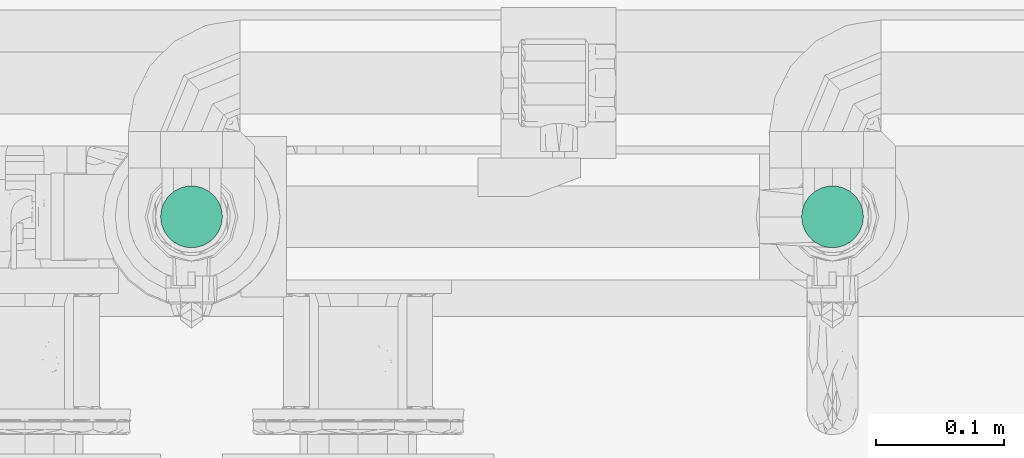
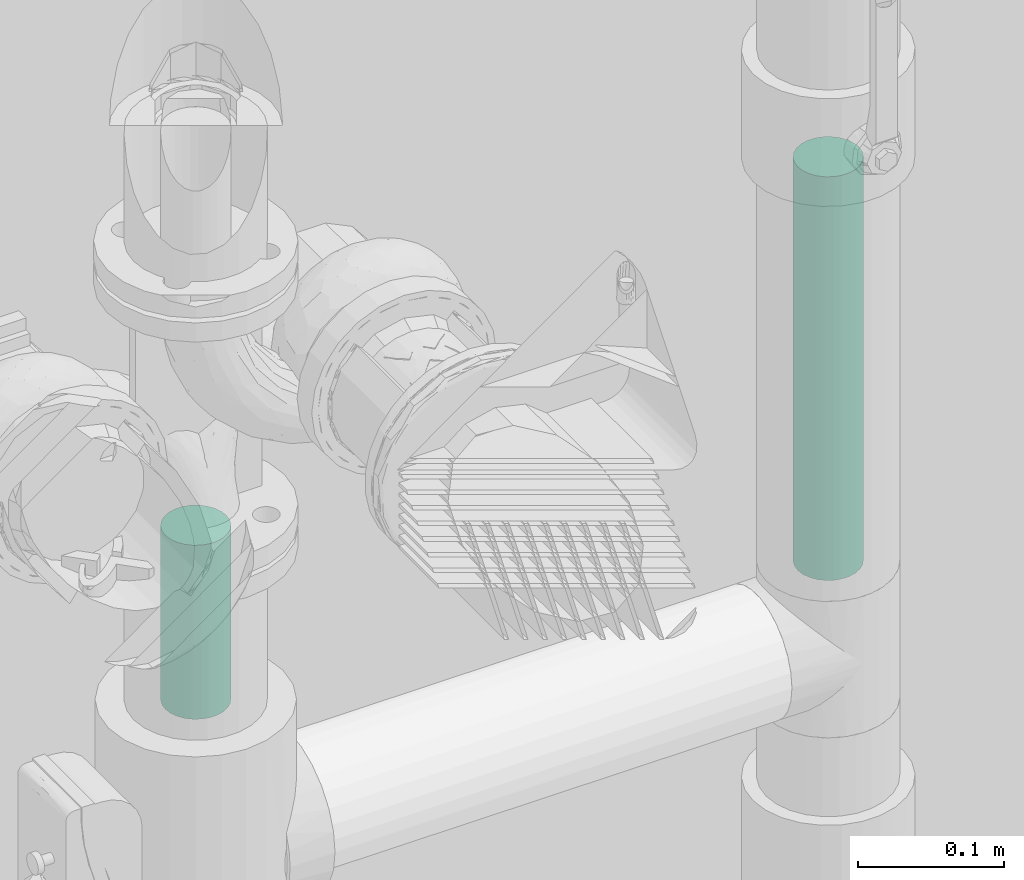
# One storey, part 80 of 94: 2 flow segments.
"""IFC2X3 building model written with IfcOpenShell, lengths in millimetres."""

from ifc_helpers import new_model, entity, si_unit, converted_unit, derived_unit, direction, frame, origin, origin_2d_with_axis, place, context, subcontext, project, spatial, circle, extrude, type_object, element, save


model = new_model("IFC2X3")

# Units and contexts
model_context = context("Model", 3, precision=0.01, world=origin(), true_north=direction((6.123031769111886e-17, 1.0)))
body_context = subcontext(model_context, "Body", "Model", "MODEL_VIEW")
ifc_project = project(units=[si_unit("LENGTHUNIT", "METRE", prefix="MILLI"), si_unit("AREAUNIT", "SQUARE_METRE"), si_unit("VOLUMEUNIT", "CUBIC_METRE"), converted_unit("PLANEANGLEUNIT", "DEGREE", entity("IfcRatioMeasure", 0.017453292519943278), si_unit("PLANEANGLEUNIT", "RADIAN"), dimensions=[0, 0, 0, 0, 0, 0, 0]), si_unit("MASSUNIT", "GRAM", prefix="KILO"), derived_unit("MASSDENSITYUNIT", [(si_unit("MASSUNIT", "GRAM", prefix="KILO"), 1), (si_unit("LENGTHUNIT", "METRE"), -3)]), derived_unit("IONCONCENTRATIONUNIT", [(si_unit("MASSUNIT", "GRAM", prefix="KILO"), 1), (si_unit("LENGTHUNIT", "METRE"), -3)]), derived_unit("MOMENTOFINERTIAUNIT", [(si_unit("LENGTHUNIT", "METRE"), 4)]), si_unit("TIMEUNIT", "SECOND"), si_unit("FREQUENCYUNIT", "HERTZ"), si_unit("THERMODYNAMICTEMPERATUREUNIT", "DEGREE_CELSIUS"), derived_unit("THERMALTRANSMITTANCEUNIT", [(si_unit("MASSUNIT", "GRAM", prefix="KILO"), 1), (si_unit("THERMODYNAMICTEMPERATUREUNIT", "KELVIN"), -1), (si_unit("TIMEUNIT", "SECOND"), -3)]), derived_unit("THERMALCONDUCTANCEUNIT", [(si_unit("MASSUNIT", "GRAM", prefix="KILO"), 1), (si_unit("THERMODYNAMICTEMPERATUREUNIT", "KELVIN"), -1), (si_unit("TIMEUNIT", "SECOND"), -3), (si_unit("LENGTHUNIT", "METRE"), 1)]), derived_unit("VOLUMETRICFLOWRATEUNIT", [(si_unit("LENGTHUNIT", "METRE"), 3), (si_unit("TIMEUNIT", "SECOND"), -1)]), derived_unit("MASSFLOWRATEUNIT", [(si_unit("MASSUNIT", "GRAM", prefix="KILO"), 1), (si_unit("TIMEUNIT", "SECOND"), -1)]), derived_unit("ROTATIONALFREQUENCYUNIT", [(si_unit("TIMEUNIT", "SECOND"), -1)]), si_unit("ELECTRICCURRENTUNIT", "AMPERE"), si_unit("ELECTRICVOLTAGEUNIT", "VOLT"), si_unit("POWERUNIT", "WATT"), si_unit("FORCEUNIT", "NEWTON", prefix="KILO"), si_unit("ILLUMINANCEUNIT", "LUX"), si_unit("LUMINOUSFLUXUNIT", "LUMEN"), si_unit("LUMINOUSINTENSITYUNIT", "CANDELA"), derived_unit("USERDEFINED", [(si_unit("MASSUNIT", "GRAM", prefix="KILO"), -1), (si_unit("LENGTHUNIT", "METRE"), -2), (si_unit("TIMEUNIT", "SECOND"), 3), (si_unit("LUMINOUSFLUXUNIT", "LUMEN"), 1)]), derived_unit("USERDEFINED", [(si_unit("MASSUNIT", "GRAM", prefix="KILO"), 1), (si_unit("TIMEUNIT", "SECOND"), -3), (si_unit("LENGTHUNIT", "METRE"), 3), (si_unit("ELECTRICCURRENTUNIT", "AMPERE"), -2)]), derived_unit("SOUNDPOWERUNIT", [(si_unit("MASSUNIT", "GRAM", prefix="KILO"), 1), (si_unit("TIMEUNIT", "SECOND"), -3), (si_unit("LENGTHUNIT", "METRE"), 2)]), derived_unit("SOUNDPRESSUREUNIT", [(si_unit("MASSUNIT", "GRAM", prefix="KILO"), 1), (si_unit("LENGTHUNIT", "METRE"), -1), (si_unit("TIMEUNIT", "SECOND"), -2)]), derived_unit("LINEARVELOCITYUNIT", [(si_unit("LENGTHUNIT", "METRE"), 1), (si_unit("TIMEUNIT", "SECOND"), -1)]), si_unit("PRESSUREUNIT", "PASCAL"), derived_unit("USERDEFINED", [(si_unit("MASSUNIT", "GRAM", prefix="KILO"), 1), (si_unit("LENGTHUNIT", "METRE"), -2), (si_unit("TIMEUNIT", "SECOND"), -2)]), derived_unit("LINEARFORCEUNIT", [(si_unit("MASSUNIT", "GRAM", prefix="KILO"), 1), (si_unit("TIMEUNIT", "SECOND"), -2)]), derived_unit("PLANARFORCEUNIT", [(si_unit("MASSUNIT", "GRAM", prefix="KILO"), 1), (si_unit("LENGTHUNIT", "METRE"), -1), (si_unit("TIMEUNIT", "SECOND"), -2)]), derived_unit("SPECIFICHEATCAPACITYUNIT", [(si_unit("THERMODYNAMICTEMPERATUREUNIT", "KELVIN"), -1), (si_unit("LENGTHUNIT", "METRE"), 2), (si_unit("TIMEUNIT", "SECOND"), -2)]), derived_unit("HEATINGVALUEUNIT", [(si_unit("LENGTHUNIT", "METRE"), 2), (si_unit("TIMEUNIT", "SECOND"), -2)]), derived_unit("VAPORPERMEABILITYUNIT", [(si_unit("LENGTHUNIT", "METRE"), -1), (si_unit("TIMEUNIT", "SECOND"), 1)]), derived_unit("DYNAMICVISCOSITYUNIT", [(si_unit("MASSUNIT", "GRAM", prefix="KILO"), 1), (si_unit("TIMEUNIT", "SECOND"), -1), (si_unit("LENGTHUNIT", "METRE"), -1)]), derived_unit("THERMALEXPANSIONCOEFFICIENTUNIT", [(si_unit("THERMODYNAMICTEMPERATUREUNIT", "KELVIN"), -1)]), derived_unit("MODULUSOFELASTICITYUNIT", [(si_unit("MASSUNIT", "GRAM", prefix="KILO"), 1), (si_unit("LENGTHUNIT", "METRE"), -1), (si_unit("TIMEUNIT", "SECOND"), -2)]), derived_unit("ISOTHERMALMOISTURECAPACITYUNIT", [(si_unit("LENGTHUNIT", "METRE"), 3), (si_unit("MASSUNIT", "GRAM", prefix="KILO"), -1)]), derived_unit("MOISTUREDIFFUSIVITYUNIT", [(si_unit("TIMEUNIT", "SECOND"), -1), (si_unit("LENGTHUNIT", "METRE"), 2)])], contexts=[model_context])

# Site, building, storey
site_placement = place(None, origin())
site = spatial("IfcSite", under=ifc_project, at=site_placement, Name="Default", CompositionType="ELEMENT")
building_placement = place(site_placement, origin())
building = spatial("IfcBuilding", under=site, at=building_placement, CompositionType="ELEMENT")
storey_placement = place(building_placement, origin())
storey = spatial("IfcBuildingStorey", under=building, at=storey_placement, Name="Niveau 0", CompositionType="ELEMENT", Elevation=0.0)

# Flow segments
pipe_segment_type_1 = type_object("IfcPipeSegmentType", Name="Canalisation:Bride acier", PredefinedType="NOTDEFINED")
flow_segment_1_placement = place(storey_placement, origin())
element("IfcFlowSegment", 1, at=flow_segment_1_placement, inside=storey, type_object=pipe_segment_type_1, Name="Canalisation:Bride acier", ObjectType="Canalisation:Bride acier", context=body_context, shape_type="SweptSolid", body=[
    extrude(circle(Radius=24.13, at=origin_2d_with_axis()), frame((-8972.14586555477, 9922.47054616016, 2067.589965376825)), (0.0, 0.0, 1.0), 337.41003462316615),
])
pipe_segment_type_2 = type_object("IfcPipeSegmentType", Name="Canalisation:Standard", PredefinedType="NOTDEFINED")
flow_segment_2_placement = place(storey_placement, origin())
element("IfcFlowSegment", 2, at=flow_segment_2_placement, inside=storey, type_object=pipe_segment_type_2, Name="Canalisation:Standard", ObjectType="Canalisation:Standard", context=body_context, shape_type="SweptSolid", body=[
    extrude(circle(Radius=24.13, at=origin_2d_with_axis()), frame((-9472.145865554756, 9922.470546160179, 2126.589965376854)), (0.0, 0.0, 1.0), 145.46275572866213),
])

save(model, "model.ifc")
